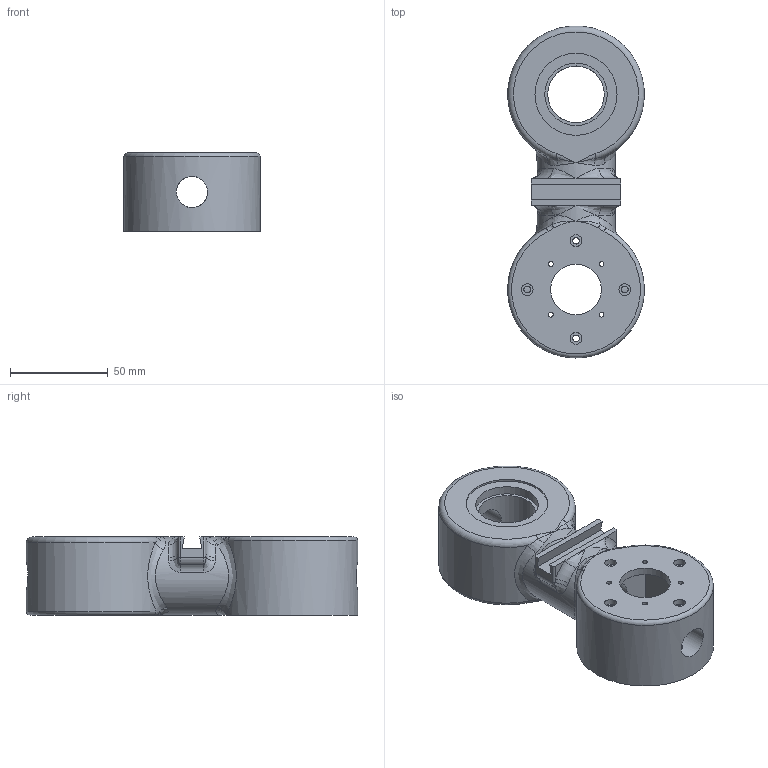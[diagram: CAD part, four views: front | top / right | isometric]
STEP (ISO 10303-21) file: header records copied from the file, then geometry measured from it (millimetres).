
FILE_DESCRIPTION(/* description */ (''),/* implementation_level */ '2;1');
FILE_NAME(/* name */ 'blocco_nema17.stp',/* time_stamp */ '2025-06-05T08:09:45+02:00',/* author */ ('R5800u'),/* organization */ (''),/* preprocessor_version */ 'ST-DEVELOPER v20',/* originating_system */ 'Autodesk Inventor 2025',/* authorisation */ '');
FILE_SCHEMA (('AUTOMOTIVE_DESIGN { 1 0 10303 214 3 1 1 }'));
Length unit declared in the file: millimetre
Products named in the file (1): blocco_nema17
Bounding box: 69.99 x 170 x 40 mm (x, y, z)
Volume: 234847.4 mm3; surface area: 48096.8 mm2
Topology: 1 solids, 1 shells, 113 faces, 267 edges, 151 vertices
Faces by surface type: cylinder 39, bspline 36, plane 27, torus 11
Full cylindrical faces by diameter (mm): 2.459 x4, 3.4 x8, 6 x4, 16 x3, 26 x1, 29 x1, 32 x2, 40 x1, 42 x1
Entity records: 5227 total; most frequent: CARTESIAN_POINT 2820, ORIENTED_EDGE 498, DIRECTION 431, EDGE_CURVE 249, AXIS2_PLACEMENT_3D 179, EDGE_LOOP 152, VERTEX_POINT 151, FACE_OUTER_BOUND 113
